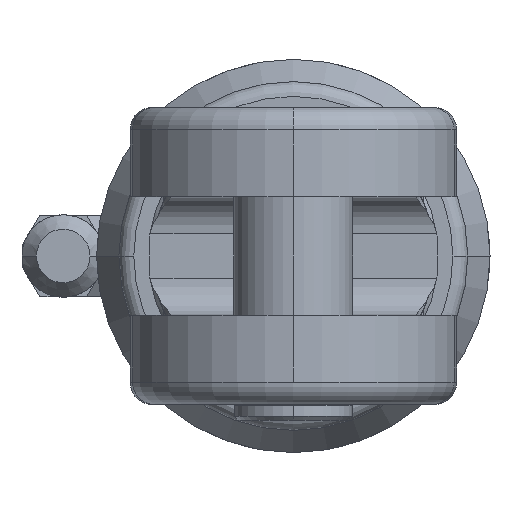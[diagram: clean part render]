
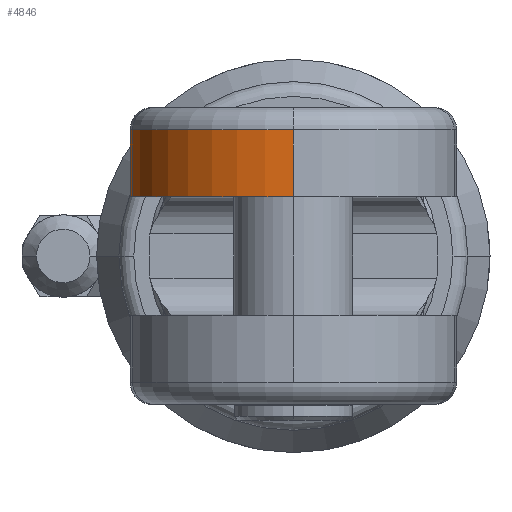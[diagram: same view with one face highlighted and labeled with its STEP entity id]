
A CAD part, left-side view. The second image highlights one B-rep face of the part: STEP entity #4846.
In plain terms, the highlighted cylindrical face has radius 22 mm (diameter 44 mm), a partial arc.
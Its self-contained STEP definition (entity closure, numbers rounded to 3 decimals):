
#75 = ORIENTED_EDGE ( 'NONE', *, *, #117, .F. ) ;
#117 = EDGE_CURVE ( 'NONE', #933, #3979, #1560, .T. ) ;
#207 = CARTESIAN_POINT ( 'NONE',  ( -1438.676, 21.665, 20. ) ) ;
#272 = CARTESIAN_POINT ( 'NONE',  ( -1442.5, 0., 17. ) ) ;
#358 = CYLINDRICAL_SURFACE ( 'NONE', #2880, 22. ) ;
#671 = LINE ( 'NONE', #207, #5096 ) ;
#678 = DIRECTION ( 'NONE',  ( -1., 0., 0. ) ) ;
#933 = VERTEX_POINT ( 'NONE', #1318 ) ;
#938 = VECTOR ( 'NONE', #5136, 1000. ) ;
#1246 = ORIENTED_EDGE ( 'NONE', *, *, #3590, .T. ) ;
#1317 = DIRECTION ( 'NONE',  ( -1., 0., 0. ) ) ;
#1318 = CARTESIAN_POINT ( 'NONE',  ( -1464.5, 0., 8. ) ) ;
#1560 = CIRCLE ( 'NONE', #4145, 22. ) ;
#2001 = CIRCLE ( 'NONE', #3125, 22. ) ;
#2061 = VERTEX_POINT ( 'NONE', #2971 ) ;
#2073 = LINE ( 'NONE', #3409, #938 ) ;
#2354 = CARTESIAN_POINT ( 'NONE',  ( -1442.5, 0., 8. ) ) ;
#2745 = FACE_OUTER_BOUND ( 'NONE', #2859, .T. ) ;
#2746 = DIRECTION ( 'NONE',  ( 0., 0., -1. ) ) ;
#2859 = EDGE_LOOP ( 'NONE', ( #4644, #1246, #3649, #75 ) ) ;
#2880 = AXIS2_PLACEMENT_3D ( 'NONE', #4770, #5200, #1317 ) ;
#2971 = CARTESIAN_POINT ( 'NONE',  ( -1438.676, 21.665, 17. ) ) ;
#3063 = DIRECTION ( 'NONE',  ( 0., 0., -1. ) ) ;
#3071 = CARTESIAN_POINT ( 'NONE',  ( -1438.676, 21.665, 8. ) ) ;
#3125 = AXIS2_PLACEMENT_3D ( 'NONE', #272, #3248, #678 ) ;
#3248 = DIRECTION ( 'NONE',  ( 0., 0., -1. ) ) ;
#3409 = CARTESIAN_POINT ( 'NONE',  ( -1464.5, 0., 20. ) ) ;
#3590 = EDGE_CURVE ( 'NONE', #4018, #2061, #2001, .T. ) ;
#3649 = ORIENTED_EDGE ( 'NONE', *, *, #4476, .T. ) ;
#3828 = EDGE_CURVE ( 'NONE', #4018, #933, #2073, .T. ) ;
#3965 = CARTESIAN_POINT ( 'NONE',  ( -1464.5, 0., 17. ) ) ;
#3979 = VERTEX_POINT ( 'NONE', #3071 ) ;
#4018 = VERTEX_POINT ( 'NONE', #3965 ) ;
#4145 = AXIS2_PLACEMENT_3D ( 'NONE', #2354, #3063, #5122 ) ;
#4476 = EDGE_CURVE ( 'NONE', #2061, #3979, #671, .T. ) ;
#4644 = ORIENTED_EDGE ( 'NONE', *, *, #3828, .F. ) ;
#4770 = CARTESIAN_POINT ( 'NONE',  ( -1442.5, 0., 20. ) ) ;
#4846 = ADVANCED_FACE ( 'NONE', ( #2745 ), #358, .T. ) ;
#5096 = VECTOR ( 'NONE', #2746, 1000. ) ;
#5122 = DIRECTION ( 'NONE',  ( 1., 0., 0. ) ) ;
#5136 = DIRECTION ( 'NONE',  ( 0., 0., -1. ) ) ;
#5200 = DIRECTION ( 'NONE',  ( 0., 0., -1. ) ) ;
